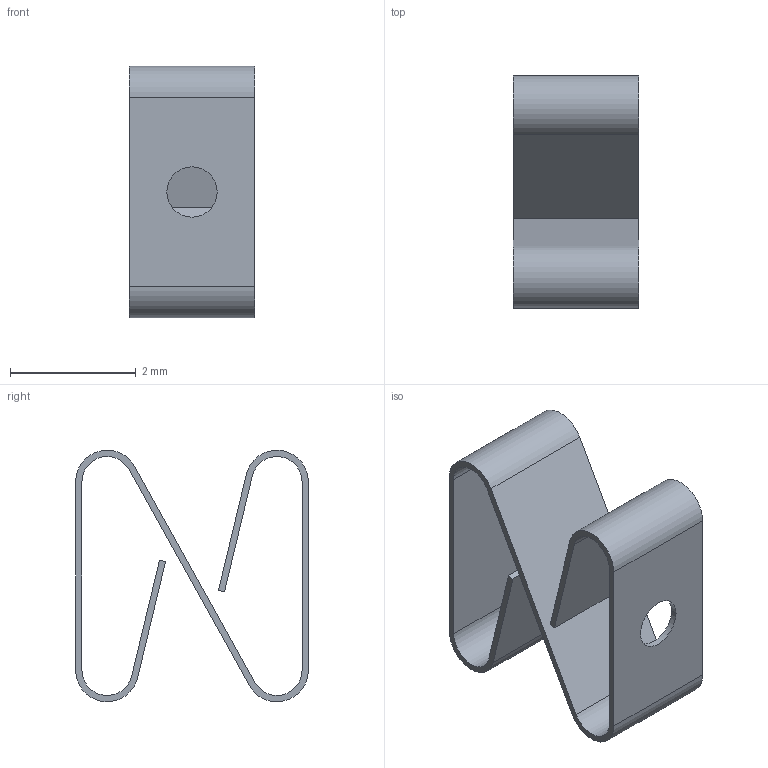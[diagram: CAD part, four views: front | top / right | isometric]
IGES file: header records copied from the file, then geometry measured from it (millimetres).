
Start section:  PTC IGES file: 8G2040037B1.igs
Global section: file name: 8G2040037B1.igs; native system: Creo Parametric by PTC Inc.; preprocessor: 2015200; author: jairo; organization: Unknown; date: 20210219.083414; units: millimetre
Bounding box: 2 x 3.7 x 4 mm (x, y, z)
Surface area: 78.3 mm2 (no closed solid volume)
Topology: 0 solids, 0 shells, 24 faces, 132 edges, 132 vertices
Faces by surface type: bspline 14, revolution 10
